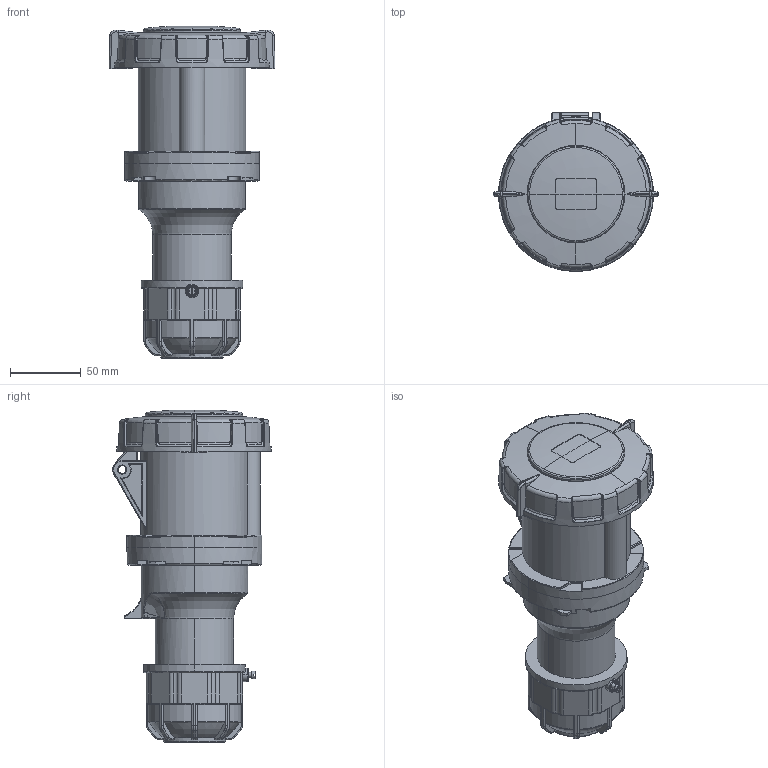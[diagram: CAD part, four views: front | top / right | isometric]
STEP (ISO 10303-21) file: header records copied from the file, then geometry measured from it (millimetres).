
FILE_DESCRIPTION(('FreeCAD Model'),'2;1');
FILE_NAME('Open CASCADE Shape Model','2026-02-04T10:58:31',(''),(''), 'Open CASCADE STEP processor 7.8','FreeCAD','Unknown');
FILE_SCHEMA(('AUTOMOTIVE_DESIGN { 1 0 10303 214 1 1 1 1 }'));
Length unit declared in the file: millimetre
Products named in the file (7): TL3T63632; Tampa parte 2; Prensa cabo; Parafuso prensa cabo; Corpo Tomada; Tampa parte 1; Tomada
Assembly tree (6 placements, depth 2):
  TL3T63632
    Tampa parte 2
    Prensa cabo
    Parafuso prensa cabo
    Corpo Tomada
    Tampa parte 1
    Tomada
Bounding box: 117.39 x 112.5 x 234.85 mm (x, y, z)
Volume: 724470.6 mm3; surface area: 182048.6 mm2
Topology: 6 solids, 7 shells, 1415 faces, 3955 edges, 2567 vertices
Faces by surface type: plane 525, cylinder 438, bspline 193, torus 186, cone 51, sphere 22
Full cylindrical faces by diameter (mm): 3.5 x1, 5.3 x1, 18.5 x1, 74 x1, 99.8 x1
Entity records: 57430 total; most frequent: CARTESIAN_POINT 22956, ORIENTED_EDGE 7884, DIRECTION 6514, EDGE_CURVE 3942, AXIS2_PLACEMENT_3D 2581, VERTEX_POINT 2567, FACE_BOUND 1452, EDGE_LOOP 1452
